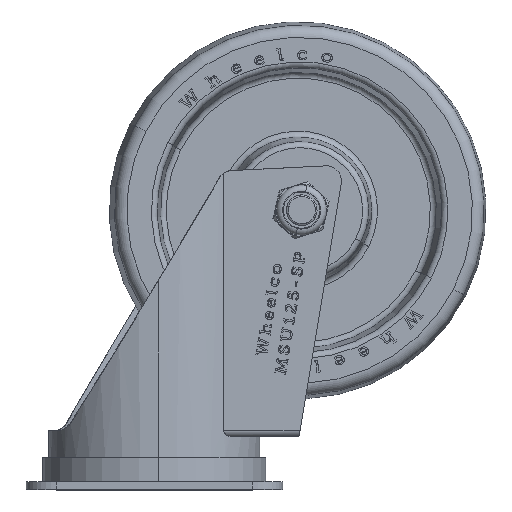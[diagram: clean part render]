
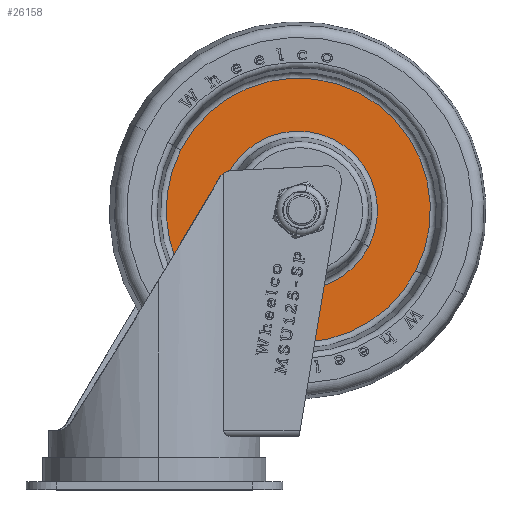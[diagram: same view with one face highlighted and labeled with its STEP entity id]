
A CAD part, top view. The second image highlights one B-rep face of the part: STEP entity #26158.
In plain terms, the highlighted planar face has unit normal (0.038, 0, 0.999) as drawn and (0, 1, 0) by its records, which use the part's own axes.
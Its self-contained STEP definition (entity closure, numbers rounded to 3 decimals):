
#486 = ORIENTED_EDGE ( 'NONE', *, *, #52635, .F. ) ;
#1533 = ORIENTED_EDGE ( 'NONE', *, *, #22171, .T. ) ;
#3023 = CARTESIAN_POINT ( 'NONE',  ( 0., 6., -43.818 ) ) ;
#4718 = ORIENTED_EDGE ( 'NONE', *, *, #8041, .T. ) ;
#6028 = CARTESIAN_POINT ( 'NONE',  ( 0., 6., 43.818 ) ) ;
#8041 = EDGE_CURVE ( 'NONE', #11228, #37434, #20664, .T. ) ;
#8337 = EDGE_LOOP ( 'NONE', ( #4718, #1533 ) ) ;
#8702 = AXIS2_PLACEMENT_3D ( 'NONE', #9083, #39677, #17972 ) ;
#9083 = CARTESIAN_POINT ( 'NONE',  ( 26.266, 6., 0. ) ) ;
#9207 = CARTESIAN_POINT ( 'NONE',  ( 0., 6., 0. ) ) ;
#9471 = VERTEX_POINT ( 'NONE', #3023 ) ;
#10666 = DIRECTION ( 'NONE',  ( 0., 0., -1. ) ) ;
#11228 = VERTEX_POINT ( 'NONE', #33456 ) ;
#15784 = AXIS2_PLACEMENT_3D ( 'NONE', #43604, #35059, #22453 ) ;
#17350 = DIRECTION ( 'NONE',  ( 0., -1., 0. ) ) ;
#17435 = VERTEX_POINT ( 'NONE', #6028 ) ;
#17695 = PLANE ( 'NONE',  #8702 ) ;
#17972 = DIRECTION ( 'NONE',  ( 0., 0., 1. ) ) ;
#18192 = CARTESIAN_POINT ( 'NONE',  ( 0., 6., 0. ) ) ;
#20664 = CIRCLE ( 'NONE', #56263, 26.266 ) ;
#21077 = CIRCLE ( 'NONE', #42112, 43.818 ) ;
#22171 = EDGE_CURVE ( 'NONE', #37434, #11228, #53131, .T. ) ;
#22453 = DIRECTION ( 'NONE',  ( 0., 0., -1. ) ) ;
#23033 = AXIS2_PLACEMENT_3D ( 'NONE', #49245, #28120, #10666 ) ;
#26158 = ADVANCED_FACE ( 'NONE', ( #47964, #52279 ), #17695, .T. ) ;
#28120 = DIRECTION ( 'NONE',  ( 0., -1., 0. ) ) ;
#29124 = ORIENTED_EDGE ( 'NONE', *, *, #50938, .F. ) ;
#31345 = DIRECTION ( 'NONE',  ( 0., 0., -1. ) ) ;
#33456 = CARTESIAN_POINT ( 'NONE',  ( 0., 6., -26.266 ) ) ;
#34975 = DIRECTION ( 'NONE',  ( 0., -1., 0. ) ) ;
#35059 = DIRECTION ( 'NONE',  ( 0., -1., 0. ) ) ;
#35251 = DIRECTION ( 'NONE',  ( 0., 0., -1. ) ) ;
#37434 = VERTEX_POINT ( 'NONE', #56196 ) ;
#39677 = DIRECTION ( 'NONE',  ( 0., 1., 0. ) ) ;
#42112 = AXIS2_PLACEMENT_3D ( 'NONE', #18192, #17350, #31345 ) ;
#43114 = CIRCLE ( 'NONE', #15784, 43.818 ) ;
#43604 = CARTESIAN_POINT ( 'NONE',  ( 0., 6., 0. ) ) ;
#47964 = FACE_BOUND ( 'NONE', #8337, .T. ) ;
#49236 = EDGE_LOOP ( 'NONE', ( #29124, #486 ) ) ;
#49245 = CARTESIAN_POINT ( 'NONE',  ( 0., 6., 0. ) ) ;
#50938 = EDGE_CURVE ( 'NONE', #9471, #17435, #43114, .T. ) ;
#52279 = FACE_OUTER_BOUND ( 'NONE', #49236, .T. ) ;
#52635 = EDGE_CURVE ( 'NONE', #17435, #9471, #21077, .T. ) ;
#53131 = CIRCLE ( 'NONE', #23033, 26.266 ) ;
#56196 = CARTESIAN_POINT ( 'NONE',  ( 0., 6., 26.266 ) ) ;
#56263 = AXIS2_PLACEMENT_3D ( 'NONE', #9207, #34975, #35251 ) ;
